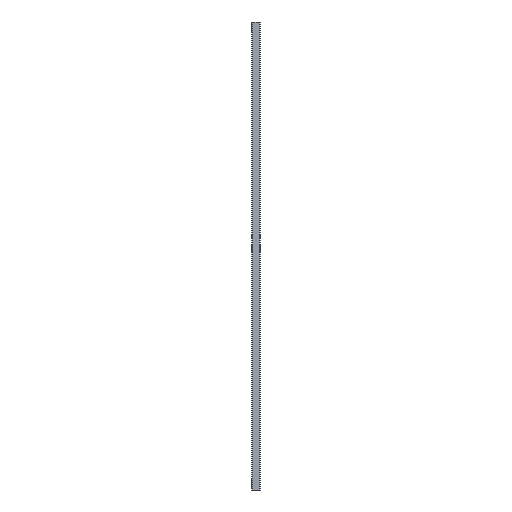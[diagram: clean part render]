
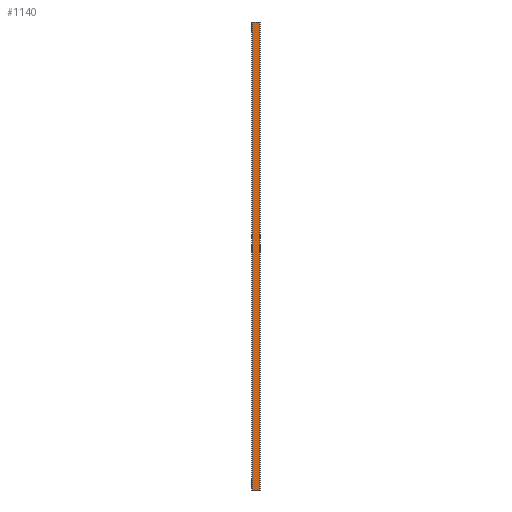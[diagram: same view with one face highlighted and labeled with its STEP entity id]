
A CAD part, left-side view. The second image highlights one B-rep face of the part: STEP entity #1140.
In plain terms, the highlighted planar face has unit normal (-1, 0, 0).
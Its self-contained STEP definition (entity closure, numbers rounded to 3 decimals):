
#73 = DIRECTION ( 'NONE',  ( 0., 1., 0. ) ) ;
#107 = CARTESIAN_POINT ( 'NONE',  ( -8., 12.5, 679. ) ) ;
#111 = VECTOR ( 'NONE', #1704, 1000. ) ;
#152 = ORIENTED_EDGE ( 'NONE', *, *, #1101, .F. ) ;
#169 = EDGE_CURVE ( 'NONE', #1425, #1393, #910, .T. ) ;
#188 = CARTESIAN_POINT ( 'NONE',  ( -8., 12.5, 679. ) ) ;
#198 = VERTEX_POINT ( 'NONE', #220 ) ;
#220 = CARTESIAN_POINT ( 'NONE',  ( -8., 12.5, 0. ) ) ;
#258 = VERTEX_POINT ( 'NONE', #1292 ) ;
#298 = LINE ( 'NONE', #1389, #392 ) ;
#337 = VECTOR ( 'NONE', #1024, 1000. ) ;
#362 = DIRECTION ( 'NONE',  ( -1., 0., 0. ) ) ;
#367 = DIRECTION ( 'NONE',  ( 0., 0., -1. ) ) ;
#392 = VECTOR ( 'NONE', #1121, 1000. ) ;
#414 = VERTEX_POINT ( 'NONE', #1108 ) ;
#472 = LINE ( 'NONE', #1184, #1732 ) ;
#494 = DIRECTION ( 'NONE',  ( 0., -1., 0. ) ) ;
#596 = EDGE_CURVE ( 'NONE', #1651, #198, #994, .T. ) ;
#609 = CARTESIAN_POINT ( 'NONE',  ( -8., 3.2, 0. ) ) ;
#638 = CARTESIAN_POINT ( 'NONE',  ( -8., 0., 0. ) ) ;
#647 = FACE_OUTER_BOUND ( 'NONE', #1045, .T. ) ;
#648 = CARTESIAN_POINT ( 'NONE',  ( -8., 0., 0. ) ) ;
#701 = CARTESIAN_POINT ( 'NONE',  ( -8., 0., 0. ) ) ;
#751 = ORIENTED_EDGE ( 'NONE', *, *, #169, .T. ) ;
#769 = CARTESIAN_POINT ( 'NONE',  ( -8., 0., 0. ) ) ;
#802 = VERTEX_POINT ( 'NONE', #1501 ) ;
#841 = VERTEX_POINT ( 'NONE', #1646 ) ;
#863 = ORIENTED_EDGE ( 'NONE', *, *, #1603, .T. ) ;
#895 = CARTESIAN_POINT ( 'NONE',  ( -8., 12.5, 679. ) ) ;
#908 = DIRECTION ( 'NONE',  ( 0., 0., 1. ) ) ;
#910 = LINE ( 'NONE', #648, #1433 ) ;
#915 = VECTOR ( 'NONE', #1667, 1000. ) ;
#923 = CARTESIAN_POINT ( 'NONE',  ( -8., 0., 679. ) ) ;
#955 = ORIENTED_EDGE ( 'NONE', *, *, #596, .T. ) ;
#994 = LINE ( 'NONE', #107, #1280 ) ;
#1022 = EDGE_CURVE ( 'NONE', #1425, #414, #1467, .T. ) ;
#1024 = DIRECTION ( 'NONE',  ( 0., 1., 0. ) ) ;
#1045 = EDGE_LOOP ( 'NONE', ( #1131, #751, #1554, #1728, #863, #1281, #955, #152 ) ) ;
#1054 = DIRECTION ( 'NONE',  ( 0., 1., 0. ) ) ;
#1068 = EDGE_CURVE ( 'NONE', #802, #258, #1330, .T. ) ;
#1101 = EDGE_CURVE ( 'NONE', #414, #198, #1181, .T. ) ;
#1108 = CARTESIAN_POINT ( 'NONE',  ( -8., 9.3, 0. ) ) ;
#1111 = LINE ( 'NONE', #188, #915 ) ;
#1121 = DIRECTION ( 'NONE',  ( 0., 0., -1. ) ) ;
#1131 = ORIENTED_EDGE ( 'NONE', *, *, #1022, .F. ) ;
#1140 = ADVANCED_FACE ( 'NONE', ( #647 ), #1437, .T. ) ;
#1181 = LINE ( 'NONE', #769, #337 ) ;
#1184 = CARTESIAN_POINT ( 'NONE',  ( -8., 0., 679. ) ) ;
#1221 = AXIS2_PLACEMENT_3D ( 'NONE', #1299, #362, #908 ) ;
#1280 = VECTOR ( 'NONE', #367, 1000. ) ;
#1281 = ORIENTED_EDGE ( 'NONE', *, *, #1394, .T. ) ;
#1292 = CARTESIAN_POINT ( 'NONE',  ( -8., 0., 679. ) ) ;
#1299 = CARTESIAN_POINT ( 'NONE',  ( -8., 0., 679. ) ) ;
#1330 = LINE ( 'NONE', #923, #111 ) ;
#1389 = CARTESIAN_POINT ( 'NONE',  ( -8., 0., 679. ) ) ;
#1393 = VERTEX_POINT ( 'NONE', #701 ) ;
#1394 = EDGE_CURVE ( 'NONE', #841, #1651, #1111, .T. ) ;
#1420 = EDGE_CURVE ( 'NONE', #258, #1393, #298, .T. ) ;
#1425 = VERTEX_POINT ( 'NONE', #609 ) ;
#1433 = VECTOR ( 'NONE', #494, 1000. ) ;
#1437 = PLANE ( 'NONE',  #1221 ) ;
#1467 = LINE ( 'NONE', #638, #1511 ) ;
#1501 = CARTESIAN_POINT ( 'NONE',  ( -8., 3.2, 679. ) ) ;
#1511 = VECTOR ( 'NONE', #1054, 1000. ) ;
#1554 = ORIENTED_EDGE ( 'NONE', *, *, #1420, .F. ) ;
#1603 = EDGE_CURVE ( 'NONE', #802, #841, #472, .T. ) ;
#1646 = CARTESIAN_POINT ( 'NONE',  ( -8., 9.3, 679. ) ) ;
#1651 = VERTEX_POINT ( 'NONE', #895 ) ;
#1667 = DIRECTION ( 'NONE',  ( 0., 1., 0. ) ) ;
#1704 = DIRECTION ( 'NONE',  ( 0., -1., 0. ) ) ;
#1728 = ORIENTED_EDGE ( 'NONE', *, *, #1068, .F. ) ;
#1732 = VECTOR ( 'NONE', #73, 1000. ) ;
